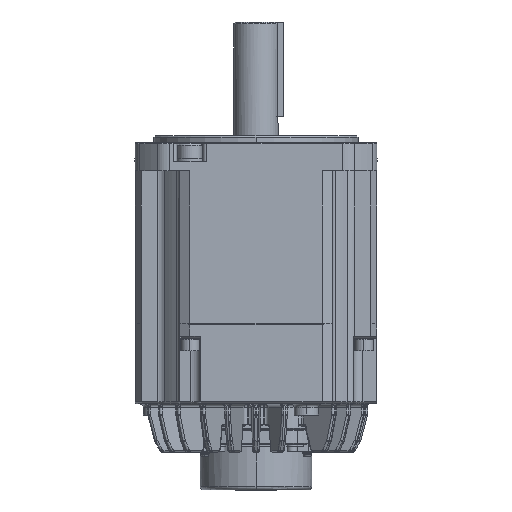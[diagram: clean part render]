
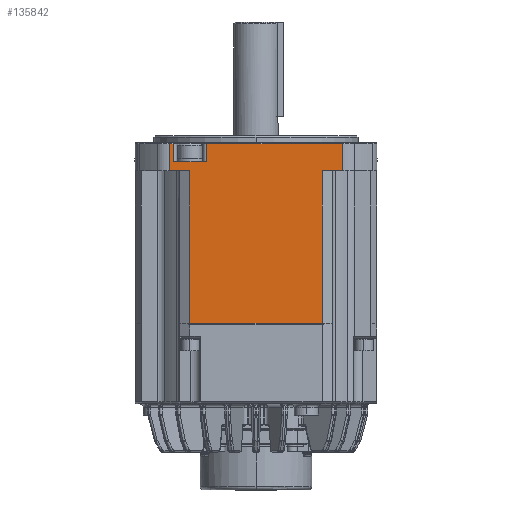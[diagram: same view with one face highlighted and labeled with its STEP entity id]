
A CAD part, front view. The second image highlights one B-rep face of the part: STEP entity #135842.
In plain terms, the highlighted planar face has unit normal (0, -1, 0) as drawn and (0, 0, -1) by its records, which use the part's own axes.
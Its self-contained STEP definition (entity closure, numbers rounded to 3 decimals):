
#1058 = CARTESIAN_POINT ( 'NONE',  ( 96.465, 19.8, -130. ) ) ;
#2850 = DIRECTION ( 'NONE',  ( 0., 1., 0. ) ) ;
#5297 = DIRECTION ( 'NONE',  ( 1., 0., 0. ) ) ;
#6158 = EDGE_CURVE ( 'NONE', #9959, #37058, #128556, .T. ) ;
#7510 = CARTESIAN_POINT ( 'NONE',  ( 96.465, 29.5, -130. ) ) ;
#8295 = EDGE_CURVE ( 'NONE', #37058, #13256, #60236, .T. ) ;
#8842 = VERTEX_POINT ( 'NONE', #37126 ) ;
#9959 = VERTEX_POINT ( 'NONE', #69242 ) ;
#10043 = DIRECTION ( 'NONE',  ( 0., -1., 0. ) ) ;
#11654 = EDGE_CURVE ( 'NONE', #52339, #8842, #111916, .T. ) ;
#13256 = VERTEX_POINT ( 'NONE', #66382 ) ;
#13687 = ORIENTED_EDGE ( 'NONE', *, *, #118434, .F. ) ;
#13961 = EDGE_CURVE ( 'NONE', #92426, #127682, #28724, .T. ) ;
#16794 = CARTESIAN_POINT ( 'NONE',  ( 96.465, 20., -130. ) ) ;
#17032 = VERTEX_POINT ( 'NONE', #73398 ) ;
#19970 = DIRECTION ( 'NONE',  ( 1., 0., 0. ) ) ;
#20943 = VERTEX_POINT ( 'NONE', #27187 ) ;
#21497 = CARTESIAN_POINT ( 'NONE',  ( 85.501, 20., -130. ) ) ;
#22349 = EDGE_LOOP ( 'NONE', ( #114496, #84565, #59800, #158890, #59014, #22530, #42639, #13687, #154143, #76698, #156492, #156483, #124498, #50320, #148652 ) ) ;
#22530 = ORIENTED_EDGE ( 'NONE', *, *, #8295, .F. ) ;
#23092 = VECTOR ( 'NONE', #139367, 1000. ) ;
#24836 = VECTOR ( 'NONE', #5297, 1000. ) ;
#25493 = EDGE_CURVE ( 'NONE', #13256, #20943, #114293, .T. ) ;
#27187 = CARTESIAN_POINT ( 'NONE',  ( 96.465, 34.5, -130. ) ) ;
#27204 = EDGE_CURVE ( 'NONE', #20943, #104308, #84915, .T. ) ;
#28444 = VECTOR ( 'NONE', #2850, 1000. ) ;
#28724 = LINE ( 'NONE', #91732, #24836 ) ;
#29207 = DIRECTION ( 'NONE',  ( 1., 0., 0. ) ) ;
#29966 = VERTEX_POINT ( 'NONE', #137620 ) ;
#31306 = VERTEX_POINT ( 'NONE', #120059 ) ;
#32304 = LINE ( 'NONE', #150961, #28444 ) ;
#35684 = CARTESIAN_POINT ( 'NONE',  ( 5.5, 29.5, -130. ) ) ;
#37058 = VERTEX_POINT ( 'NONE', #133212 ) ;
#37126 = CARTESIAN_POINT ( 'NONE',  ( 12.711, 29.5, -130. ) ) ;
#39769 = CARTESIAN_POINT ( 'NONE',  ( 96.465, 116.5, -130. ) ) ;
#41197 = LINE ( 'NONE', #72261, #103056 ) ;
#42639 = ORIENTED_EDGE ( 'NONE', *, *, #6158, .F. ) ;
#43562 = CARTESIAN_POINT ( 'NONE',  ( 96.465, 34.5, -130. ) ) ;
#45038 = VECTOR ( 'NONE', #19970, 1000. ) ;
#50320 = ORIENTED_EDGE ( 'NONE', *, *, #157095, .F. ) ;
#50354 = CARTESIAN_POINT ( 'NONE',  ( 85.501, 116.5, -130. ) ) ;
#51182 = CARTESIAN_POINT ( 'NONE',  ( 3.535, 20., -130. ) ) ;
#51463 = EDGE_CURVE ( 'NONE', #104308, #52096, #138159, .T. ) ;
#52096 = VERTEX_POINT ( 'NONE', #50354 ) ;
#52339 = VERTEX_POINT ( 'NONE', #35684 ) ;
#53004 = EDGE_CURVE ( 'NONE', #8842, #117527, #41197, .T. ) ;
#55421 = VECTOR ( 'NONE', #73445, 1000. ) ;
#58555 = EDGE_CURVE ( 'NONE', #106732, #92426, #92203, .T. ) ;
#58599 = VECTOR ( 'NONE', #89496, 1000. ) ;
#58741 = CARTESIAN_POINT ( 'NONE',  ( 3.535, 19.8, -130. ) ) ;
#59014 = ORIENTED_EDGE ( 'NONE', *, *, #25493, .F. ) ;
#59037 = CARTESIAN_POINT ( 'NONE',  ( 85.501, 34.5, -130. ) ) ;
#59053 = LINE ( 'NONE', #143233, #120947 ) ;
#59800 = ORIENTED_EDGE ( 'NONE', *, *, #51463, .F. ) ;
#60236 = LINE ( 'NONE', #1058, #155078 ) ;
#66382 = CARTESIAN_POINT ( 'NONE',  ( 96.465, 19.8, -130. ) ) ;
#69242 = CARTESIAN_POINT ( 'NONE',  ( 23.5, 29.5, -130. ) ) ;
#71190 = EDGE_CURVE ( 'NONE', #52096, #31306, #59053, .T. ) ;
#71710 = CARTESIAN_POINT ( 'NONE',  ( 16.289, 29.5, -130. ) ) ;
#72261 = CARTESIAN_POINT ( 'NONE',  ( 96.465, 29.5, -130. ) ) ;
#72364 = VECTOR ( 'NONE', #95955, 1000. ) ;
#73398 = CARTESIAN_POINT ( 'NONE',  ( 14.499, 34.5, -130. ) ) ;
#73445 = DIRECTION ( 'NONE',  ( 0., -1., 0. ) ) ;
#73971 = EDGE_CURVE ( 'NONE', #31306, #29966, #87629, .T. ) ;
#76698 = ORIENTED_EDGE ( 'NONE', *, *, #11654, .F. ) ;
#77153 = CARTESIAN_POINT ( 'NONE',  ( 96.465, 34.5, -130. ) ) ;
#77958 = LINE ( 'NONE', #7510, #45038 ) ;
#79044 = VECTOR ( 'NONE', #130356, 1000. ) ;
#79954 = EDGE_CURVE ( 'NONE', #29966, #17032, #135291, .T. ) ;
#84565 = ORIENTED_EDGE ( 'NONE', *, *, #71190, .F. ) ;
#84915 = LINE ( 'NONE', #77153, #23092 ) ;
#87629 = LINE ( 'NONE', #39769, #58599 ) ;
#89496 = DIRECTION ( 'NONE',  ( -1., 0., 0. ) ) ;
#91732 = CARTESIAN_POINT ( 'NONE',  ( 96.465, 19.8, -130. ) ) ;
#91743 = VECTOR ( 'NONE', #10043, 1000. ) ;
#92203 = LINE ( 'NONE', #51182, #55421 ) ;
#92426 = VERTEX_POINT ( 'NONE', #58741 ) ;
#95955 = DIRECTION ( 'NONE',  ( 0., 1., 0. ) ) ;
#99922 = DIRECTION ( 'NONE',  ( 1., 0., 0. ) ) ;
#102381 = VECTOR ( 'NONE', #138064, 1000. ) ;
#103056 = VECTOR ( 'NONE', #159268, 1000. ) ;
#103185 = DIRECTION ( 'NONE',  ( 0., 0., 1. ) ) ;
#104308 = VERTEX_POINT ( 'NONE', #59037 ) ;
#105178 = DIRECTION ( 'NONE',  ( -1., 0., 0. ) ) ;
#105898 = FACE_OUTER_BOUND ( 'NONE', #22349, .T. ) ;
#106732 = VERTEX_POINT ( 'NONE', #156460 ) ;
#109920 = DIRECTION ( 'NONE',  ( 0., 1., 0. ) ) ;
#110358 = VECTOR ( 'NONE', #109920, 1000. ) ;
#111916 = LINE ( 'NONE', #155180, #79044 ) ;
#112518 = VECTOR ( 'NONE', #105178, 1000. ) ;
#113226 = AXIS2_PLACEMENT_3D ( 'NONE', #16794, #103185, #29207 ) ;
#114293 = LINE ( 'NONE', #134315, #110358 ) ;
#114496 = ORIENTED_EDGE ( 'NONE', *, *, #73971, .F. ) ;
#117527 = VERTEX_POINT ( 'NONE', #71710 ) ;
#118434 = EDGE_CURVE ( 'NONE', #117527, #9959, #77958, .T. ) ;
#120059 = CARTESIAN_POINT ( 'NONE',  ( 50., 116.5, -130. ) ) ;
#120799 = CARTESIAN_POINT ( 'NONE',  ( 23.5, 20., -130. ) ) ;
#120947 = VECTOR ( 'NONE', #156164, 1000. ) ;
#124498 = ORIENTED_EDGE ( 'NONE', *, *, #58555, .F. ) ;
#125614 = CARTESIAN_POINT ( 'NONE',  ( 14.499, 20., -130. ) ) ;
#127682 = VERTEX_POINT ( 'NONE', #139097 ) ;
#128556 = LINE ( 'NONE', #120799, #91743 ) ;
#130356 = DIRECTION ( 'NONE',  ( 1., 0., 0. ) ) ;
#133212 = CARTESIAN_POINT ( 'NONE',  ( 23.5, 19.8, -130. ) ) ;
#134315 = CARTESIAN_POINT ( 'NONE',  ( 96.465, 20., -130. ) ) ;
#135291 = LINE ( 'NONE', #125614, #102381 ) ;
#135842 = ADVANCED_FACE ( 'NONE', ( #105898 ), #152413, .F. ) ;
#137620 = CARTESIAN_POINT ( 'NONE',  ( 14.499, 116.5, -130. ) ) ;
#138064 = DIRECTION ( 'NONE',  ( 0., -1., 0. ) ) ;
#138159 = LINE ( 'NONE', #21497, #72364 ) ;
#139097 = CARTESIAN_POINT ( 'NONE',  ( 5.5, 19.8, -130. ) ) ;
#139367 = DIRECTION ( 'NONE',  ( -1., 0., 0. ) ) ;
#143233 = CARTESIAN_POINT ( 'NONE',  ( 96.465, 116.5, -130. ) ) ;
#148652 = ORIENTED_EDGE ( 'NONE', *, *, #79954, .F. ) ;
#149277 = LINE ( 'NONE', #43562, #112518 ) ;
#149571 = EDGE_CURVE ( 'NONE', #127682, #52339, #32304, .T. ) ;
#150961 = CARTESIAN_POINT ( 'NONE',  ( 5.5, 20., -130. ) ) ;
#152413 = PLANE ( 'NONE',  #113226 ) ;
#154143 = ORIENTED_EDGE ( 'NONE', *, *, #53004, .F. ) ;
#155078 = VECTOR ( 'NONE', #99922, 1000. ) ;
#155180 = CARTESIAN_POINT ( 'NONE',  ( 96.465, 29.5, -130. ) ) ;
#156164 = DIRECTION ( 'NONE',  ( -1., 0., 0. ) ) ;
#156460 = CARTESIAN_POINT ( 'NONE',  ( 3.535, 34.5, -130. ) ) ;
#156483 = ORIENTED_EDGE ( 'NONE', *, *, #13961, .F. ) ;
#156492 = ORIENTED_EDGE ( 'NONE', *, *, #149571, .F. ) ;
#157095 = EDGE_CURVE ( 'NONE', #17032, #106732, #149277, .T. ) ;
#158890 = ORIENTED_EDGE ( 'NONE', *, *, #27204, .F. ) ;
#159268 = DIRECTION ( 'NONE',  ( 1., 0., 0. ) ) ;
